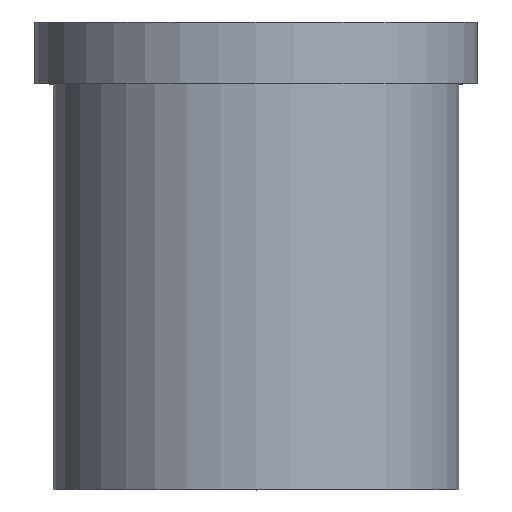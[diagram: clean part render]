
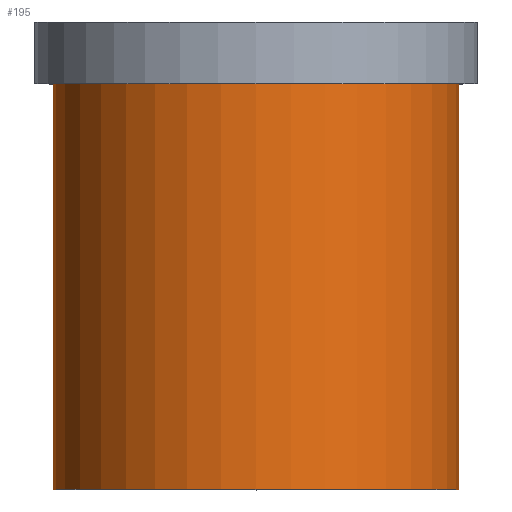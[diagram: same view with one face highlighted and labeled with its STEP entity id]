
A CAD part, top view. The second image highlights one B-rep face of the part: STEP entity #195.
In plain terms, the highlighted cylindrical face has radius 33 mm (diameter 66 mm), a full revolution.
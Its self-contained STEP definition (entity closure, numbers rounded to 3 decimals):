
#32=ORIENTED_EDGE('',*,*,#50,.T.);
#33=ORIENTED_EDGE('',*,*,#49,.F.);
#49=EDGE_CURVE('',#59,#59,#69,.T.);
#50=EDGE_CURVE('',#60,#60,#70,.T.);
#59=VERTEX_POINT('',#280);
#60=VERTEX_POINT('',#283);
#69=CIRCLE('',#213,33.);
#70=CIRCLE('',#215,33.);
#82=EDGE_LOOP('',(#32));
#83=EDGE_LOOP('',(#33));
#102=FACE_BOUND('',#82,.T.);
#103=FACE_BOUND('',#83,.T.);
#117=CYLINDRICAL_SURFACE('',#214,33.);
#195=ADVANCED_FACE('',(#102,#103),#117,.T.);
#213=AXIS2_PLACEMENT_3D('',#279,#241,#242);
#214=AXIS2_PLACEMENT_3D('',#281,#243,#244);
#215=AXIS2_PLACEMENT_3D('',#282,#245,#246);
#241=DIRECTION('',(0.,-1.,0.));
#242=DIRECTION('',(0.,0.,-1.));
#243=DIRECTION('',(0.,-1.,0.));
#244=DIRECTION('',(0.,0.,-1.));
#245=DIRECTION('',(0.,-1.,0.));
#246=DIRECTION('',(0.,0.,-1.));
#279=CARTESIAN_POINT('',(0.,0.,0.));
#280=CARTESIAN_POINT('',(0.,0.,-33.));
#281=CARTESIAN_POINT('',(0.,0.,0.));
#282=CARTESIAN_POINT('',(0.,66.,0.));
#283=CARTESIAN_POINT('',(0.,66.,-33.));
